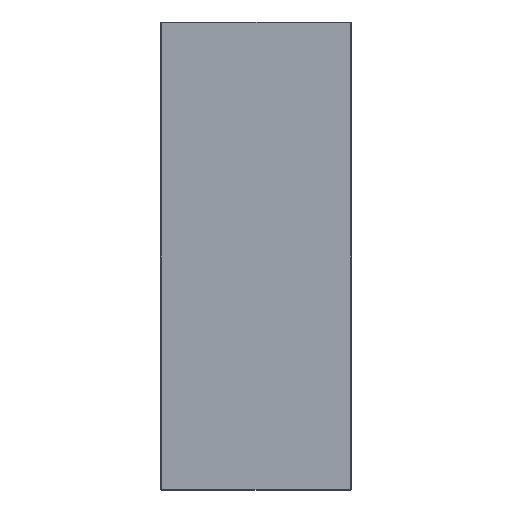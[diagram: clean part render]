
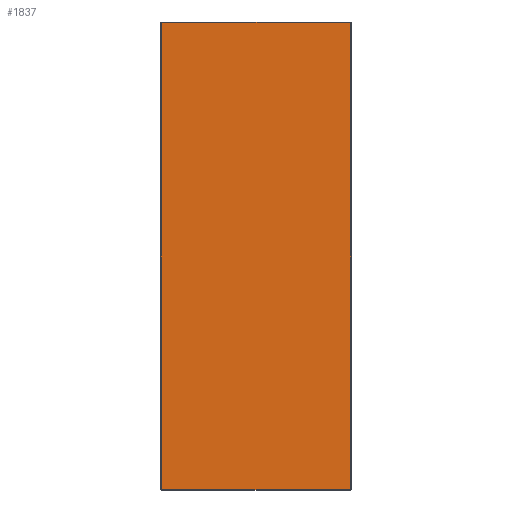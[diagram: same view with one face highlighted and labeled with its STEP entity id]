
A CAD part, top view. The second image highlights one B-rep face of the part: STEP entity #1837.
In plain terms, the highlighted planar face has unit normal (0, 0, 1).
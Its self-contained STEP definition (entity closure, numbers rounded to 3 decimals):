
#1552=CARTESIAN_POINT('',(323.,-799.0,4.0));
#1553=VERTEX_POINT('',#1552);
#1560=CARTESIAN_POINT('',(-323.,-799.0,4.0));
#1561=VERTEX_POINT('',#1560);
#1562=CARTESIAN_POINT('',(323.,-799.0,4.0));
#1563=DIRECTION('',(-1.0,0.0,0.0));
#1564=VECTOR('',#1563,646.);
#1565=LINE('',#1562,#1564);
#1566=EDGE_CURVE('',#1553,#1561,#1565,.T.);
#1593=CARTESIAN_POINT('',(324.,-798.,4.0));
#1594=VERTEX_POINT('',#1593);
#1601=CARTESIAN_POINT('',(323.,-798.,4.0));
#1602=DIRECTION('',(0.0,0.0,-1.0));
#1603=DIRECTION('',(0.707,-0.707,0.0));
#1604=AXIS2_PLACEMENT_3D('',#1601,#1602,#1603);
#1605=CIRCLE('',#1604,1.);
#1606=EDGE_CURVE('',#1594,#1553,#1605,.T.);
#1618=CARTESIAN_POINT('',(324.,798.,4.0));
#1619=VERTEX_POINT('',#1618);
#1626=CARTESIAN_POINT('',(324.,798.,4.0));
#1627=DIRECTION('',(0.0,-1.0,0.0));
#1628=VECTOR('',#1627,1596.0);
#1629=LINE('',#1626,#1628);
#1630=EDGE_CURVE('',#1619,#1594,#1629,.T.);
#1657=CARTESIAN_POINT('',(323.,799.,4.0));
#1658=VERTEX_POINT('',#1657);
#1665=CARTESIAN_POINT('',(323.,798.0,4.0));
#1666=DIRECTION('',(0.0,0.0,-1.0));
#1667=DIRECTION('',(0.707,0.707,0.0));
#1668=AXIS2_PLACEMENT_3D('',#1665,#1666,#1667);
#1669=CIRCLE('',#1668,1.);
#1670=EDGE_CURVE('',#1658,#1619,#1669,.T.);
#1680=CARTESIAN_POINT('',(-323.,799.,4.0));
#1681=VERTEX_POINT('',#1680);
#1688=CARTESIAN_POINT('',(-323.,799.,4.0));
#1689=DIRECTION('',(1.0,0.0,0.0));
#1690=VECTOR('',#1689,646.0);
#1691=LINE('',#1688,#1690);
#1692=EDGE_CURVE('',#1681,#1658,#1691,.T.);
#1711=CARTESIAN_POINT('',(-324.,798.0,4.0));
#1712=VERTEX_POINT('',#1711);
#1719=CARTESIAN_POINT('',(-323.,798.0,4.0));
#1720=DIRECTION('',(0.0,0.0,-1.0));
#1721=DIRECTION('',(-0.707,0.707,0.0));
#1722=AXIS2_PLACEMENT_3D('',#1719,#1720,#1721);
#1723=CIRCLE('',#1722,1.);
#1724=EDGE_CURVE('',#1712,#1681,#1723,.T.);
#1734=CARTESIAN_POINT('',(-324.,-798.,4.0));
#1735=VERTEX_POINT('',#1734);
#1742=CARTESIAN_POINT('',(-324.,-798.0,4.0));
#1743=DIRECTION('',(0.0,1.0,0.0));
#1744=VECTOR('',#1743,1596.0);
#1745=LINE('',#1742,#1744);
#1746=EDGE_CURVE('',#1735,#1712,#1745,.T.);
#1761=CARTESIAN_POINT('',(-323.,-798.0,4.0));
#1762=DIRECTION('',(0.0,0.0,-1.0));
#1763=DIRECTION('',(-0.707,-0.707,0.0));
#1764=AXIS2_PLACEMENT_3D('',#1761,#1762,#1763);
#1765=CIRCLE('',#1764,1.);
#1766=EDGE_CURVE('',#1561,#1735,#1765,.T.);
#1822=CARTESIAN_POINT('',(0.,0.,4.0));
#1823=DIRECTION('',(0.0,0.0,1.0));
#1824=DIRECTION('',(1.0,0.0,0.0));
#1825=AXIS2_PLACEMENT_3D('',#1822,#1823,#1824);
#1826=PLANE('',#1825);
#1827=ORIENTED_EDGE('',*,*,#1566,.F.);
#1828=ORIENTED_EDGE('',*,*,#1606,.F.);
#1829=ORIENTED_EDGE('',*,*,#1630,.F.);
#1830=ORIENTED_EDGE('',*,*,#1670,.F.);
#1831=ORIENTED_EDGE('',*,*,#1692,.F.);
#1832=ORIENTED_EDGE('',*,*,#1724,.F.);
#1833=ORIENTED_EDGE('',*,*,#1746,.F.);
#1834=ORIENTED_EDGE('',*,*,#1766,.F.);
#1835=EDGE_LOOP('',(#1827,#1828,#1829,#1830,#1831,#1832,#1833,#1834));
#1836=FACE_OUTER_BOUND('',#1835,.T.);
#1837=ADVANCED_FACE('',(#1836),#1826,.T.);
